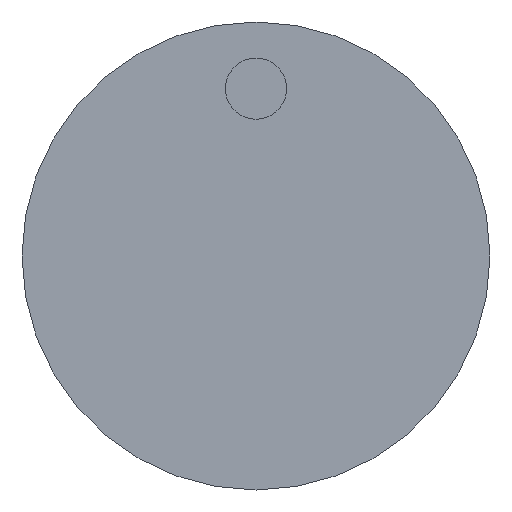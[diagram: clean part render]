
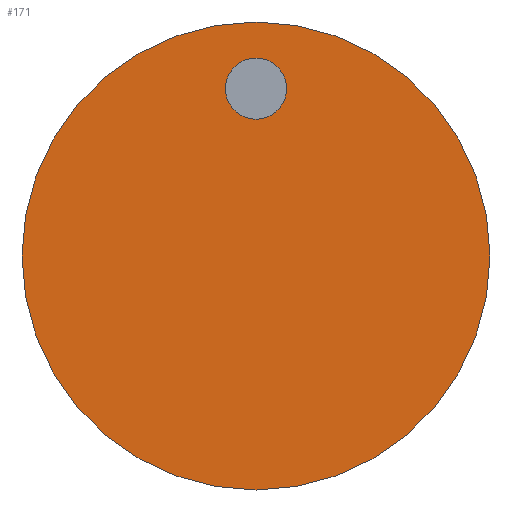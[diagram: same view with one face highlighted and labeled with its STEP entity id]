
A CAD part, left-side view. The second image highlights one B-rep face of the part: STEP entity #171.
In plain terms, the highlighted planar face has unit normal (-1, 0, 0).
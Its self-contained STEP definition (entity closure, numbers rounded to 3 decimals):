
#132=CARTESIAN_POINT('',(-1.3,0.,6.5));
#133=VERTEX_POINT('',#132);
#140=CARTESIAN_POINT('',(-1.3,0.,0.));
#141=DIRECTION('',(-0.,0.,1.));
#142=DIRECTION('',(1.,0.,0.));
#143=AXIS2_PLACEMENT_3D('',#140,#142,#141);
#144=CIRCLE('',#143,6.5);
#145=EDGE_CURVE('',#133,#133,#144,.T.);
#152=CARTESIAN_POINT('',(-1.3,0.,0.));
#153=DIRECTION('',(0.,0.,1.));
#154=DIRECTION('',(-1.,0.,0.));
#155=AXIS2_PLACEMENT_3D('',#152,#154,#153);
#156=PLANE('',#155);
#157=ORIENTED_EDGE('',*,*,#145,.F.);
#158=EDGE_LOOP('',(#157));
#159=FACE_OUTER_BOUND('',#158,.T.);
#160=CARTESIAN_POINT('',(-1.3,0.,5.5));
#161=VERTEX_POINT('',#160);
#162=CARTESIAN_POINT('',(-1.3,0.,4.65));
#163=DIRECTION('',(-0.,0.,1.));
#164=DIRECTION('',(1.,0.,0.));
#165=AXIS2_PLACEMENT_3D('',#162,#164,#163);
#166=CIRCLE('',#165,0.85);
#167=EDGE_CURVE('',#161,#161,#166,.T.);
#168=ORIENTED_EDGE('E11',*,*,#167,.T.);
#169=EDGE_LOOP('',(#168));
#170=FACE_BOUND('',#169,.T.);
#171=ADVANCED_FACE('F13',(#159,#170),#156,.T.);
